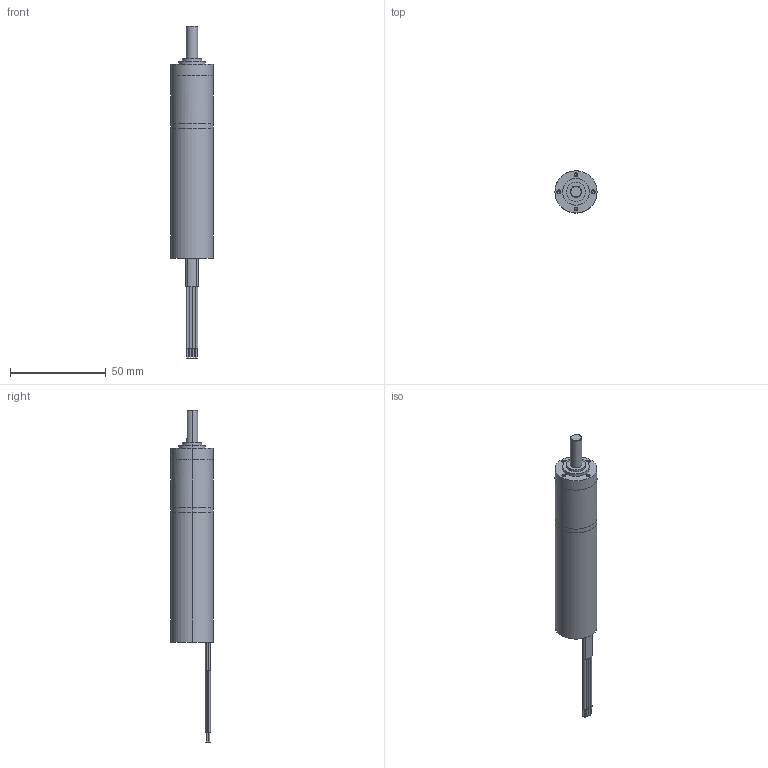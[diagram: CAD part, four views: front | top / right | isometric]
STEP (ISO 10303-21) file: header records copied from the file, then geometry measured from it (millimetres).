
FILE_DESCRIPTION (( 'STEP AP214' ), '1' );
FILE_NAME ('BLWRPG093S-R19.STEP', '2009-12-11T23:59:32', ( 'Tim Raines' ), ( 'Anaheim Automation' ), 'SwSTEP 2.0', 'SolidWorks 2010', '' );
FILE_SCHEMA (( 'AUTOMOTIVE_DESIGN' ));
Length unit declared in the file: millimetre
Products named in the file (1): BLWRPG093S-R19
Bounding box: 22 x 22 x 173.75 mm (x, y, z)
Volume: 39623.7 mm3; surface area: 10628.6 mm2
Topology: 2 solids, 4 shells, 174 faces, 386 edges, 232 vertices
Faces by surface type: cylinder 91, cone 45, plane 38
Entity records: 6696 total; most frequent: DIRECTION 917, CARTESIAN_POINT 813, ORIENTED_EDGE 732, AXIS2_PLACEMENT_3D 380, EDGE_CURVE 366, VERTEX_POINT 232, EDGE_LOOP 208, CIRCLE 205
